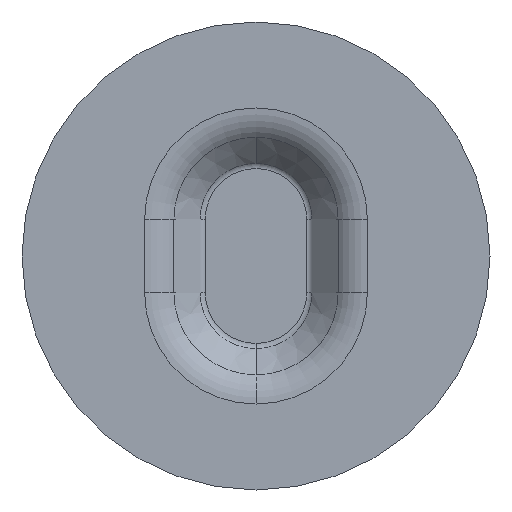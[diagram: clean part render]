
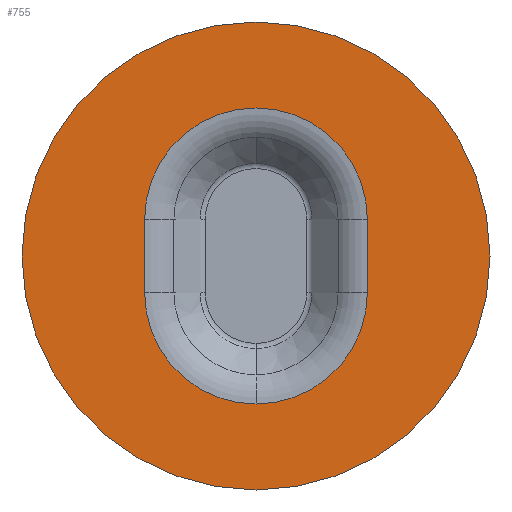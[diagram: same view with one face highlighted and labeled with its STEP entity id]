
A CAD part, front view. The second image highlights one B-rep face of the part: STEP entity #755.
In plain terms, the highlighted planar face has unit normal (0, -1, 0).
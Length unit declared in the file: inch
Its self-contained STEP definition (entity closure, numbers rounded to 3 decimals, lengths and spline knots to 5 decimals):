
#15 = VERTEX_POINT ( 'NONE', #470 ) ;
#38 = DIRECTION ( 'NONE',  ( 0., 0., -1. ) ) ;
#55 = DIRECTION ( 'NONE',  ( 0., 0., -1. ) ) ;
#80 = DIRECTION ( 'NONE',  ( 0., 0., -1. ) ) ;
#85 = EDGE_CURVE ( 'NONE', #112, #15, #530, .T. ) ;
#112 = VERTEX_POINT ( 'NONE', #395 ) ;
#121 = DIRECTION ( 'NONE',  ( 0., 0., -1. ) ) ;
#146 = AXIS2_PLACEMENT_3D ( 'NONE', #316, #384, #38 ) ;
#150 = ORIENTED_EDGE ( 'NONE', *, *, #365, .F. ) ;
#172 = PLANE ( 'NONE',  #421 ) ;
#225 = CARTESIAN_POINT ( 'NONE',  ( -0.27884, -0.188, -0.06499 ) ) ;
#255 = LINE ( 'NONE', #525, #725 ) ;
#270 = ORIENTED_EDGE ( 'NONE', *, *, #882, .F. ) ;
#309 = CARTESIAN_POINT ( 'NONE',  ( 0.01859, -0.188, -0.06499 ) ) ;
#316 = CARTESIAN_POINT ( 'NONE',  ( 0.01859, -0.188, 0.03301 ) ) ;
#341 = DIRECTION ( 'NONE',  ( 0., -1., 0. ) ) ;
#356 = FACE_BOUND ( 'NONE', #961, .T. ) ;
#357 = CARTESIAN_POINT ( 'NONE',  ( 0.01859, -0.188, -0.36242 ) ) ;
#365 = EDGE_CURVE ( 'NONE', #801, #983, #614, .T. ) ;
#384 = DIRECTION ( 'NONE',  ( 0., -1., 0. ) ) ;
#388 = DIRECTION ( 'NONE',  ( 0., -1., 0. ) ) ;
#395 = CARTESIAN_POINT ( 'NONE',  ( 0.01859, -0.188, 0.65801 ) ) ;
#410 = CARTESIAN_POINT ( 'NONE',  ( 0.31601, -0.188, 0.13101 ) ) ;
#421 = AXIS2_PLACEMENT_3D ( 'NONE', #1039, #341, #682 ) ;
#433 = EDGE_CURVE ( 'NONE', #965, #801, #468, .T. ) ;
#452 = VERTEX_POINT ( 'NONE', #410 ) ;
#459 = CARTESIAN_POINT ( 'NONE',  ( 0.01859, -0.188, -0.06499 ) ) ;
#467 = VERTEX_POINT ( 'NONE', #492 ) ;
#468 = CIRCLE ( 'NONE', #1044, 0.29743 ) ;
#470 = CARTESIAN_POINT ( 'NONE',  ( 0.01859, -0.188, -0.59199 ) ) ;
#472 = AXIS2_PLACEMENT_3D ( 'NONE', #1076, #388, #1095 ) ;
#484 = EDGE_LOOP ( 'NONE', ( #539, #807 ) ) ;
#492 = CARTESIAN_POINT ( 'NONE',  ( -0.27884, -0.188, 0.13101 ) ) ;
#525 = CARTESIAN_POINT ( 'NONE',  ( -0.27884, -0.188, 0.03301 ) ) ;
#528 = EDGE_CURVE ( 'NONE', #983, #452, #649, .T. ) ;
#530 = CIRCLE ( 'NONE', #472, 0.625 ) ;
#539 = ORIENTED_EDGE ( 'NONE', *, *, #611, .T. ) ;
#541 = ORIENTED_EDGE ( 'NONE', *, *, #528, .F. ) ;
#555 = AXIS2_PLACEMENT_3D ( 'NONE', #459, #889, #121 ) ;
#582 = CARTESIAN_POINT ( 'NONE',  ( 0.31601, -0.188, 0.03301 ) ) ;
#596 = DIRECTION ( 'NONE',  ( 0., -1., 0. ) ) ;
#603 = EDGE_CURVE ( 'NONE', #452, #467, #979, .T. ) ;
#611 = EDGE_CURVE ( 'NONE', #15, #112, #783, .T. ) ;
#614 = CIRCLE ( 'NONE', #555, 0.29743 ) ;
#620 = ORIENTED_EDGE ( 'NONE', *, *, #433, .F. ) ;
#633 = AXIS2_PLACEMENT_3D ( 'NONE', #764, #596, #55 ) ;
#636 = ORIENTED_EDGE ( 'NONE', *, *, #603, .F. ) ;
#649 = LINE ( 'NONE', #582, #723 ) ;
#682 = DIRECTION ( 'NONE',  ( 0., 0., -1. ) ) ;
#699 = FACE_OUTER_BOUND ( 'NONE', #484, .T. ) ;
#723 = VECTOR ( 'NONE', #923, 39.37008 ) ;
#725 = VECTOR ( 'NONE', #80, 39.37008 ) ;
#755 = ADVANCED_FACE ( 'NONE', ( #356, #699 ), #172, .T. ) ;
#764 = CARTESIAN_POINT ( 'NONE',  ( 0.01859, -0.188, 0.13101 ) ) ;
#783 = CIRCLE ( 'NONE', #146, 0.625 ) ;
#801 = VERTEX_POINT ( 'NONE', #357 ) ;
#807 = ORIENTED_EDGE ( 'NONE', *, *, #85, .T. ) ;
#882 = EDGE_CURVE ( 'NONE', #467, #965, #255, .T. ) ;
#889 = DIRECTION ( 'NONE',  ( 0., -1., 0. ) ) ;
#923 = DIRECTION ( 'NONE',  ( 0., 0., 1. ) ) ;
#924 = DIRECTION ( 'NONE',  ( 0., 0., -1. ) ) ;
#961 = EDGE_LOOP ( 'NONE', ( #541, #150, #620, #270, #636 ) ) ;
#965 = VERTEX_POINT ( 'NONE', #225 ) ;
#979 = CIRCLE ( 'NONE', #633, 0.29743 ) ;
#983 = VERTEX_POINT ( 'NONE', #1003 ) ;
#992 = DIRECTION ( 'NONE',  ( 0., -1., 0. ) ) ;
#1003 = CARTESIAN_POINT ( 'NONE',  ( 0.31601, -0.188, -0.06499 ) ) ;
#1039 = CARTESIAN_POINT ( 'NONE',  ( 0.01859, -0.188, 0.03301 ) ) ;
#1044 = AXIS2_PLACEMENT_3D ( 'NONE', #309, #992, #924 ) ;
#1076 = CARTESIAN_POINT ( 'NONE',  ( 0.01859, -0.188, 0.03301 ) ) ;
#1095 = DIRECTION ( 'NONE',  ( 0., 0., -1. ) ) ;
